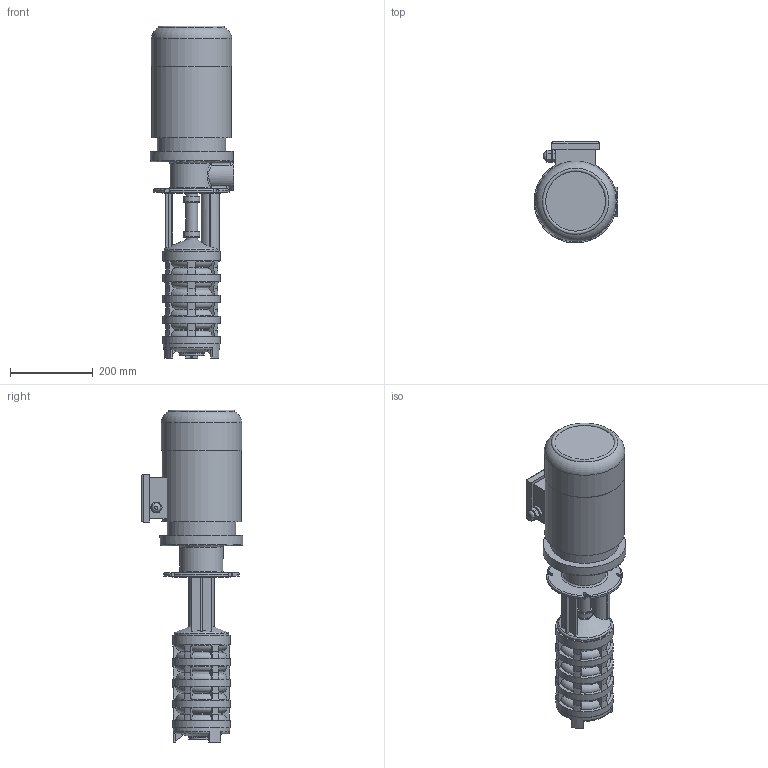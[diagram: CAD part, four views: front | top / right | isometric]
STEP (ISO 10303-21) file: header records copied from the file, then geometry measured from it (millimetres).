
FILE_DESCRIPTION(/* description */ ('Unknown'),/* implementation_level */ '2;1');
FILE_NAME(/* name */ 'gp5-400',/* time_stamp */ '2025-06-12T11:05:20+03:00',/* author */ ('Unknown'),/* organization */ ('Unknown'),/* preprocessor_version */ 'ST-DEVELOPER v16.7',/* originating_system */ 'DEX',/* authorisation */ $);
FILE_SCHEMA (('AUTOMOTIVE_DESIGN {1 0 10303 214 3 1 1}'));
Length unit declared in the file: millimetre
Products named in the file (1): gp5-400
Bounding box: 202 x 245.5 x 800.49 mm (x, y, z)
Volume: 14638510.7 mm3; surface area: 597935.4 mm2
Topology: 1 solids, 1 shells, 474 faces, 1260 edges, 819 vertices
Faces by surface type: plane 158, cylinder 94, bspline 84, cone 73, torus 65
Full cylindrical faces by diameter (mm): 17 x1, 21.5 x1, 29 x3, 33 x2, 35 x2, 39 x2, 40.5 x2, 45 x1, 47 x1, 60 x1, 137 x1, 139 x5, 140 x1, 165 x1, 192.353 x1, 194 x1, 200 x1
Entity records: 17323 total; most frequent: CARTESIAN_POINT 6092, ORIENTED_EDGE 2374, DIRECTION 2213, EDGE_CURVE 1187, AXIS2_PLACEMENT_3D 842, VERTEX_POINT 803, EDGE_LOOP 566, FACE_BOUND 566
